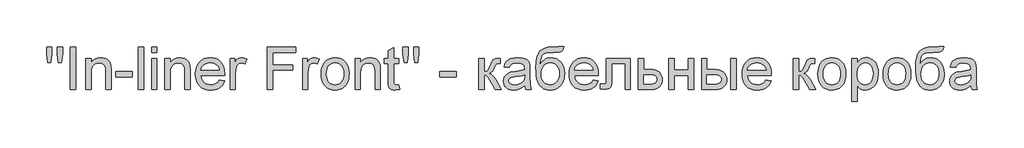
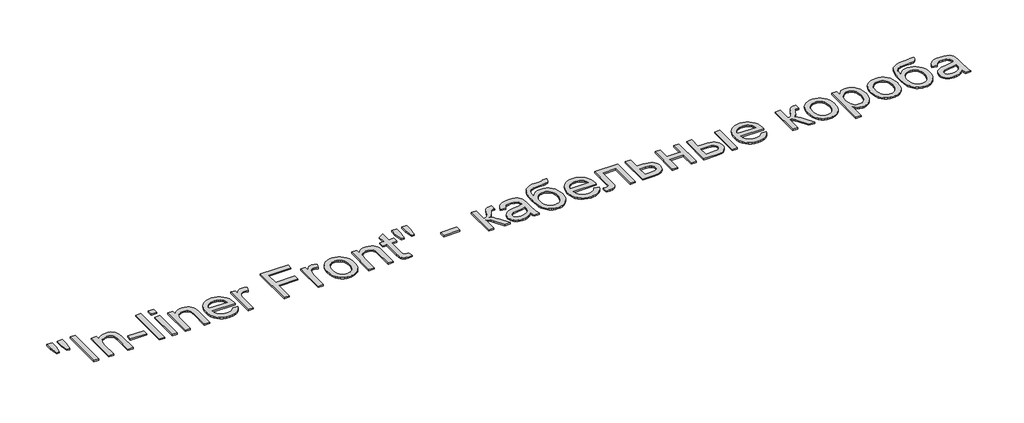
# One storey, part 29 of 48: 1 proxy.
"""IFC4 building model written with IfcOpenShell, lengths in millimetres."""

import ifcopenshell
import ifcopenshell.guid

model = None  # the IFC model being written
_history = None  # IfcOwnerHistory: only IFC2X3 demands one
_inside = {}  # id of a spatial element -> (the spatial element, [elements in it])
_under = {}  # id of a project, library or spatial element -> (it, [spatial elements below it])
_declared = {}  # id of a project -> (the project, [libraries it declares])
_typed = {}  # id of a type object -> (the type object, [elements of that type])
_made_of = {}  # id of a material, layer set ... -> (it, [elements and type objects made of it])


def new_model(schema):
    """Start an empty IFC model of exactly this schema.

    Asked for "IFC4X3", IfcOpenShell would pick the latest addendum, in which some entities
    have other attributes; the version numbers below select the first issue.
    IFC2X3 requires an IfcOwnerHistory on every rooted entity: one is made here for all.
    """
    global model, _history
    if schema == "IFC4X3":
        model = ifcopenshell.file(schema_version=(4, 3, 0, 0))
    else:
        model = ifcopenshell.file(schema=schema)
    _inside.clear()
    _under.clear()
    _declared.clear()
    _typed.clear()
    _made_of.clear()
    _history = None
    if model.schema == "IFC2X3":
        org = make("IfcOrganization", Name="unknown")
        user = make(
            "IfcPersonAndOrganization",
            ThePerson=make("IfcPerson", FamilyName="unknown"),
            TheOrganization=org,
        )
        app = make(
            "IfcApplication",
            ApplicationDeveloper=org,
            Version="unknown",
            ApplicationFullName="unknown",
            ApplicationIdentifier="unknown",
        )
        _history = make(
            "IfcOwnerHistory",
            OwningUser=user,
            OwningApplication=app,
            ChangeAction="ADDED",
            CreationDate=0,
        )
    return model


def make(cls, **values):
    """One entity of the class cls with the attributes given. An attribute that is None is left unset."""
    return model.create_entity(
        cls, **{name: value for name, value in values.items() if value is not None}
    )


def rooted(cls, **values):
    """An entity with a GlobalId (a new one), such as an element, a storey or a relation."""
    return make(cls, GlobalId=ifcopenshell.guid.new(), OwnerHistory=_history, **values)


def si_unit(unit_type, name, prefix=None):
    """IfcSIUnit, for example si_unit("LENGTHUNIT", "METRE", prefix="MILLI")."""
    return make("IfcSIUnit", UnitType=unit_type, Prefix=prefix, Name=name)


def assignment(units):
    """IfcUnitAssignment: the units of a project."""
    return None if units is None else make("IfcUnitAssignment", Units=units)


def point(xyz):
    """IfcCartesianPoint."""
    return None if xyz is None else make("IfcCartesianPoint", Coordinates=xyz)


def direction(xyz):
    """IfcDirection."""
    return None if xyz is None else make("IfcDirection", DirectionRatios=xyz)


def frame(location, z_axis=None, x_axis=None):
    """IfcAxis2Placement3D, a coordinate frame: its origin and axes. An axis left out is left unset."""
    return make(
        "IfcAxis2Placement3D",
        Location=point(location),
        Axis=direction(z_axis),
        RefDirection=direction(x_axis),
    )


def origin():
    """The frame at (0, 0, 0) with its axes left unset."""
    return frame((0.0, 0.0, 0.0))


def origin_with_axes():
    """The frame at (0, 0, 0) with the z axis (0, 0, 1) and the x axis (1, 0, 0) written out."""
    return frame((0.0, 0.0, 0.0), z_axis=(0.0, 0.0, 1.0), x_axis=(1.0, 0.0, 0.0))


def place(relative_to, where):
    """IfcLocalPlacement: puts the frame where relative to a parent placement (None: the world)."""
    return make(
        "IfcLocalPlacement", PlacementRelTo=relative_to, RelativePlacement=where
    )


def context(
    kind, dimensions, precision=None, world=None, true_north=None, identifier=None
):
    """IfcGeometricRepresentationContext, for example the 3D "Model" context."""
    return make(
        "IfcGeometricRepresentationContext",
        ContextIdentifier=identifier,
        ContextType=kind,
        CoordinateSpaceDimension=dimensions,
        Precision=precision,
        WorldCoordinateSystem=world,
        TrueNorth=true_north,
    )


def project(units=None, contexts=None):
    """IfcProject with its units and contexts."""
    return rooted(
        "IfcProject",
        Name="project",
        RepresentationContexts=contexts,
        UnitsInContext=assignment(units),
    )


def spatial(cls, under=None, at=None, **own):
    """A site, building, storey or space (cls), placed at a placement, below another one or the project."""
    s = rooted(cls, ObjectPlacement=at, **own)
    if under is not None:
        _under.setdefault(under.id(), (under, []))[1].append(s)
    return s


def polyline(points):
    """IfcPolyline through the points."""
    return make("IfcPolyline", Points=[point(p) for p in points])


def outline(outer, holes=None, kind="AREA"):
    """IfcArbitraryClosedProfileDef: a profile drawn as a closed curve; with holes, ...WithVoids."""
    if holes is None:
        return make("IfcArbitraryClosedProfileDef", ProfileType=kind, OuterCurve=outer)
    return make(
        "IfcArbitraryProfileDefWithVoids",
        ProfileType=kind,
        OuterCurve=outer,
        InnerCurves=holes,
    )


def extrude(swept, where, along, depth):
    """IfcExtrudedAreaSolid: the profile swept, set in the frame where, extruded along a direction by depth."""
    return make(
        "IfcExtrudedAreaSolid",
        SweptArea=swept,
        Position=where,
        ExtrudedDirection=direction(along),
        Depth=depth,
    )


def shape(context_of_items, identifier, shape_type, items):
    """IfcShapeRepresentation: the items that make up one representation, for example the "Body"."""
    return make(
        "IfcShapeRepresentation",
        ContextOfItems=context_of_items,
        RepresentationIdentifier=identifier,
        RepresentationType=shape_type,
        Items=items,
    )


def made_of(thing, what):
    """Note that an element or type object is made of a material, layer set ...; save() writes the relation."""
    if what is not None:
        _made_of.setdefault(what.id(), (what, []))[1].append(thing)
    return thing


def element(
    cls,
    number,
    at=None,
    inside=None,
    cuts=None,
    type_object=None,
    material=None,
    context=None,
    identifier="Body",
    shape_type=None,
    held_by="IfcProductDefinitionShape",
    body=None,
    shapes=None,
    **own,
):
    """One element of the class cls, such as IfcWall. Its Tag is "e" and its number.

    at: its placement. inside: the storey or other place that contains it. cuts: it is an
    opening in that element (IfcRelVoidsElement). A single representation is given by context,
    identifier, shape_type and body (its items); several are given by shapes. held_by: the class
    of the entity that holds the representations. save() writes the other relations.
    """
    e = rooted(cls, Tag="e%d" % number, ObjectPlacement=at, **own)
    if body is not None:
        shapes = [shape(context, identifier, shape_type, body)]
    if shapes is not None:
        e.Representation = make(held_by, Representations=shapes)
    if inside is not None:
        _inside.setdefault(inside.id(), (inside, []))[1].append(e)
    if cuts is not None:
        rooted(
            "IfcRelVoidsElement", RelatingBuildingElement=cuts, RelatedOpeningElement=e
        )
    if type_object is not None:
        _typed.setdefault(type_object.id(), (type_object, []))[1].append(e)
    return made_of(e, material)


def aggregate(whole, parts):
    """IfcRelAggregates: a whole, such as a stair, and the parts it consists of."""
    return rooted("IfcRelAggregates", RelatingObject=whole, RelatedObjects=parts)


def save(model, path):
    """Write the relations noted so far, then the file.

    IfcRelAggregates (storeys below a building ...), IfcRelContainedInSpatialStructure (elements
    in a storey), IfcRelDefinesByType, IfcRelAssociatesMaterial and IfcRelDeclares: one each for
    every whole, place, type object, material and project.
    """
    for whole, parts in _under.values():
        aggregate(whole, parts)
    for where, things in _inside.values():
        rooted(
            "IfcRelContainedInSpatialStructure",
            RelatedElements=things,
            RelatingStructure=where,
        )
    for kind, things in _typed.values():
        rooted("IfcRelDefinesByType", RelatedObjects=things, RelatingType=kind)
    for what, things in _made_of.values():
        rooted("IfcRelAssociatesMaterial", RelatedObjects=things, RelatingMaterial=what)
    for by, libraries in _declared.values():
        rooted("IfcRelDeclares", RelatingContext=by, RelatedDefinitions=libraries)
    model.write(path)


model = new_model("IFC4")

# Units and contexts
model_context = context("Model", 3, world=origin())
ifc_project = project(units=[si_unit("LENGTHUNIT", "METRE", prefix="MILLI")], contexts=[model_context])

# Site, building, storey
site = spatial("IfcSite", under=ifc_project)
building = spatial("IfcBuilding", under=site)
storey = spatial("IfcBuildingStorey", under=building, Name="Этаж 01", Elevation=0.0)

# Proxy
placement = place(None, origin())
element("IfcBuildingElementProxy", 1, Name="600 мм Arial", ObjectType="600 мм Arial", at=placement, inside=storey, context=model_context, shape_type="SweptSolid", body=[
    extrude(outline(polyline([(-11580.0276013, 10088.6137433), (-11598.4217011, 10205.0116065), (-11598.4217011, 10305.222662), (-11523.0794685, 10305.222662), (-11523.0794685, 10205.0116065), (-11539.5605819, 10088.6137433), (-11580.0276013, 10088.6137433)])), origin_with_axes(), (0.0, 0.0, 1.0), 20.0),
    extrude(outline(polyline([(-11429.7845945, 10088.6137433), (-11447.7372359, 10205.0116065), (-11447.7372359, 10305.222662), (-11372.3950032, 10305.222662), (-11372.3950032, 10205.0116065), (-11390.053339, 10088.6137433), (-11429.7845945, 10088.6137433)])), origin_with_axes(), (0.0, 0.0, 1.0), 20.0),
    extrude(outline(polyline([(-11259.3816543, 9702.4848011), (-11259.3816543, 10305.222662), (-11184.0394217, 10305.222662), (-11184.0394217, 9702.4848011), (-11259.3816543, 9702.4848011)])), origin_with_axes(), (0.0, 0.0, 1.0), 20.0),
    extrude(outline(polyline([(-11042.7727356, 9702.4848011), (-11042.7727356, 10145.1204177), (-10967.430503, 10145.1204177), (-10967.430503, 10083.3162425), (-10941.255699, 10114.4758475), (-10909.8201825, 10136.7327082), (-10873.1239535, 10150.0868247), (-10831.1670119, 10154.5381968), (-10794.0293245, 10150.9513473), (-10760.0186341, 10140.190799), (-10731.6549322, 10123.599321), (-10711.4582107, 10102.5196827), (-10697.7546064, 10077.0070663), (-10688.8702562, 10047.1166542), (-10684.8971307, 9974.2760192), (-10684.8971307, 9702.4848011), (-10760.2393633, 9702.4848011), (-10760.2393633, 9964.1224761), (-10762.409867, 10003.0811794), (-10768.9213784, 10030.7826936), (-10780.9327255, 10050.6299273), (-10799.6027368, 10066.0257888), (-10823.5334605, 10075.9034203), (-10851.3269453, 10079.1959642), (-10874.2046069, 10077.3473572), (-10895.4543906, 10071.8015361), (-10915.0762965, 10062.558501), (-10933.0703246, 10049.6182518), (-10948.1029026, 10031.5092606), (-10958.8404584, 10006.7599993), (-10965.2829918, 9975.3704681), (-10967.430503, 9937.3406668), (-10967.430503, 9702.4848011), (-11042.7727356, 9702.4848011)])), origin_with_axes(), (0.0, 0.0, 1.0), 20.0),
    extrude(outline(polyline([(-10618.9726771, 9881.4226036), (-10618.9726771, 9956.7648362), (-10383.5282002, 9956.7648362), (-10383.5282002, 9881.4226036), (-10618.9726771, 9881.4226036)])), origin_with_axes(), (0.0, 0.0, 1.0), 20.0),
    extrude(outline(polyline([(-10298.7681885, 9702.4848011), (-10298.7681885, 10305.222662), (-10223.4259559, 10305.222662), (-10223.4259559, 9702.4848011), (-10298.7681885, 9702.4848011)])), origin_with_axes(), (0.0, 0.0, 1.0), 20.0),
    extrude(outline(polyline([(-10110.412607, 10229.8804294), (-10110.412607, 10305.222662), (-10035.0703744, 10305.222662), (-10035.0703744, 10229.8804294), (-10110.412607, 10229.8804294)])), origin_with_axes(), (0.0, 0.0, 1.0), 20.0),
    extrude(outline(polyline([(-10110.412607, 9702.4848011), (-10110.412607, 10145.1204177), (-10035.0703744, 10145.1204177), (-10035.0703744, 9702.4848011), (-10110.412607, 9702.4848011)])), origin_with_axes(), (0.0, 0.0, 1.0), 20.0),
    extrude(outline(polyline([(-9922.0570255, 9702.4848011), (-9922.0570255, 10145.1204177), (-9846.7147929, 10145.1204177), (-9846.7147929, 10083.3162425), (-9820.5399889, 10114.4758475), (-9789.1044724, 10136.7327082), (-9752.4082434, 10150.0868247), (-9710.4513018, 10154.5381968), (-9673.3136144, 10150.9513473), (-9639.302924, 10140.190799), (-9610.9392221, 10123.599321), (-9590.7425006, 10102.5196827), (-9577.0388963, 10077.0070663), (-9568.1545461, 10047.1166542), (-9564.1814206, 9974.2760192), (-9564.1814206, 9702.4848011), (-9639.5236532, 9702.4848011), (-9639.5236532, 9964.1224761), (-9641.6941569, 10003.0811794), (-9648.2056683, 10030.7826936), (-9660.2170154, 10050.6299273), (-9678.8870267, 10066.0257888), (-9702.8177504, 10075.9034203), (-9730.6112352, 10079.1959642), (-9753.4888967, 10077.3473572), (-9774.7386805, 10071.8015361), (-9794.3605864, 10062.558501), (-9812.3546145, 10049.6182518), (-9827.3871925, 10031.5092606), (-9838.1247483, 10006.7599993), (-9844.5672817, 9975.3704681), (-9846.7147929, 9937.3406668), (-9846.7147929, 9702.4848011), (-9922.0570255, 9702.4848011)])), origin_with_axes(), (0.0, 0.0, 1.0), 20.0),
    extrude(outline(polyline([(-9150.682058, 9834.3337082), (-9076.8113533, 9824.9159291), (-9088.1375203, 9795.3290197), (-9103.4276157, 9769.2553832), (-9122.6816396, 9746.6950199), (-9145.899592, 9727.6479296), (-9172.8423497, 9712.5187825), (-9203.2707892, 9701.7122489), (-9237.1849106, 9695.2283288), (-9274.584714, 9693.067022), (-9321.3333185, 9696.7964258), (-9362.9867574, 9707.984637), (-9399.5450307, 9726.6316556), (-9431.0081383, 9752.7374817), (-9456.3092225, 9785.5755483), (-9474.3814255, 9824.4192884), (-9485.2247473, 9869.2687022), (-9488.8391879, 9920.1237895), (-9485.1879591, 9972.7033236), (-9474.2342727, 10019.047258), (-9455.9781287, 10059.1555925), (-9430.4195271, 10093.0283272), (-9399.0391929, 10119.9388951), (-9363.3178512, 10139.1607294), (-9323.2555019, 10150.6938299), (-9278.8521451, 10154.5381968), (-9235.8789295, 10150.703027), (-9197.0167953, 10139.1975176), (-9162.2657423, 10120.0216686), (-9131.6257706, 10093.17548), (-9106.6143935, 10059.3763217), (-9088.7491241, 10019.3415636), (-9078.0299625, 9973.0712056), (-9074.4569086, 9920.5652479), (-9074.898367, 9900.2581617), (-9413.4969553, 9900.2581617), (-9409.1329552, 9870.1930057), (-9400.4555386, 9843.8618519), (-9387.4647056, 9821.2647003), (-9370.1604563, 9802.401551), (-9349.4992837, 9787.5299214), (-9326.4376812, 9776.9073287), (-9300.9756486, 9770.5337732), (-9273.113186, 9768.4092547), (-9233.0140485, 9772.345592), (-9199.2424813, 9784.1546041), (-9171.7984845, 9804.5720548), (-9150.682058, 9834.3337082)]), holes=[polyline([(-9413.4969553, 9975.6003943), (-9149.7991412, 9975.6003943), (-9159.9894725, 10015.4052262), (-9168.754261, 10031.0586051), (-9179.9654648, 10043.8792926), (-9200.5116742, 10059.3303364), (-9223.890575, 10070.3667963), (-9250.1021672, 10076.9886722), (-9279.1464507, 10079.1959642), (-9305.6385529, 10077.4347291), (-9329.9325601, 10072.151024), (-9352.0284725, 10063.3448487), (-9371.9262899, 10051.0162034), (-9388.6235339, 10035.735305), (-9401.1177262, 10018.0723707), (-9409.4088667, 9998.0274005), (-9413.4969553, 9975.6003943)])]), origin_with_axes(), (0.0, 0.0, 1.0), 20.0),
    extrude(outline(polyline([(-8999.114676, 9702.4848011), (-8999.114676, 10145.1204177), (-8933.1902224, 10145.1204177), (-8933.1902224, 10079.6374226), (-8908.8364343, 10117.6028445), (-8886.3956326, 10139.9700698), (-8863.8812545, 10150.896165), (-8839.3067373, 10154.5381968), (-8801.7827738, 10148.7256613), (-8763.6701991, 10131.2880547), (-8788.8333275, 10063.7449204), (-8815.3208312, 10075.3332032), (-8841.8083348, 10079.1959642), (-8864.3043188, 10075.480356), (-8884.4090699, 10064.3335316), (-8900.65106, 10046.6016194), (-8911.5587611, 10023.1307481), (-8920.7190228, 9981.0450479), (-8923.7724434, 9935.1333749), (-8923.7724434, 9702.4848011), (-8999.114676, 9702.4848011)])), origin_with_axes(), (0.0, 0.0, 1.0), 20.0),
    extrude(outline(polyline([(-8471.7190477, 9702.4848011), (-8471.7190477, 10305.222662), (-8066.7545474, 10305.222662), (-8066.7545474, 10229.8804294), (-8396.3768151, 10229.8804294), (-8396.3768151, 10050.942627), (-8113.8434428, 10050.942627), (-8113.8434428, 9975.6003943), (-8396.3768151, 9975.6003943), (-8396.3768151, 9702.4848011), (-8471.7190477, 9702.4848011)])), origin_with_axes(), (0.0, 0.0, 1.0), 20.0),
    extrude(outline(polyline([(-7972.5767566, 9702.4848011), (-7972.5767566, 10145.1204177), (-7906.6523031, 10145.1204177), (-7906.6523031, 10079.6374226), (-7882.298515, 10117.6028445), (-7859.8577133, 10139.9700698), (-7837.3433352, 10150.896165), (-7812.7688179, 10154.5381968), (-7775.2448544, 10148.7256613), (-7737.1322797, 10131.2880547), (-7762.2954082, 10063.7449204), (-7788.7829118, 10075.3332032), (-7815.2704155, 10079.1959642), (-7837.7663995, 10075.480356), (-7857.8711505, 10064.3335316), (-7874.1131406, 10046.6016194), (-7885.0208418, 10023.1307481), (-7894.1811035, 9981.0450479), (-7897.234524, 9935.1333749), (-7897.234524, 9702.4848011), (-7972.5767566, 9702.4848011)])), origin_with_axes(), (0.0, 0.0, 1.0), 20.0),
    extrude(outline(polyline([(-7708.8789425, 9923.8026094), (-7704.8046494, 9981.1278213), (-7692.5817701, 10030.5251762), (-7672.2103046, 10071.9946741), (-7643.6902529, 10105.536315), (-7614.9770632, 10126.9746383), (-7583.2840293, 10142.2877264), (-7548.6111513, 10151.4755792), (-7510.9584291, 10154.5381968), (-7469.3923621, 10150.8087931), (-7431.8086178, 10139.6205819), (-7398.2071961, 10120.9735633), (-7368.5880969, 10094.8677372), (-7344.4136513, 10062.1860204), (-7327.1461902, 10023.8113298), (-7316.7857135, 9979.7436653), (-7313.3322213, 9929.9830269), (-7314.8589315, 9889.6539632), (-7319.4390624, 9853.8682421), (-7327.0726138, 9822.6258637), (-7337.7595857, 9795.9268279), (-7351.366621, 9772.8652253), (-7367.7603625, 9752.5351466), (-7386.94081, 9734.9365916), (-7408.9079636, 9720.0695605), (-7432.8064977, 9708.2559499), (-7457.7810867, 9699.8176567), (-7483.8317305, 9694.7546807), (-7510.9584291, 9693.067022), (-7553.1315013, 9696.7826302), (-7591.0647335, 9707.9294547), (-7624.7581258, 9726.5074954), (-7654.211678, 9752.5167525), (-7678.1286062, 9785.5157674), (-7695.2121264, 9825.0630819), (-7705.4622384, 9871.1586959), (-7708.8789425, 9923.8026094)]), holes=[polyline([(-7633.5367099, 9923.9497622), (-7631.357009, 9887.4052845), (-7624.8179066, 9855.7628344), (-7613.9194025, 9829.0224119), (-7598.6614967, 9807.1840169), (-7580.1018501, 9790.2200584), (-7559.2981232, 9778.1029452), (-7536.2503162, 9770.8326773), (-7510.9584291, 9768.4092547), (-7485.7953006, 9770.8464729), (-7462.8394641, 9778.1581275), (-7442.0909196, 9790.3442186), (-7423.549667, 9807.4047461), (-7408.2917613, 9829.4592718), (-7397.3932572, 9856.6273571), (-7390.8541547, 9888.9090022), (-7388.6744539, 9926.304207), (-7390.8679503, 9961.6898564), (-7397.4484395, 9992.504572), (-7408.4159214, 10018.7483539), (-7423.7703962, 10040.4212019), (-7442.3806266, 10057.3851604), (-7463.1153756, 10069.5022736), (-7485.9746431, 10076.7725415), (-7510.9584291, 10079.1959642), (-7536.2503162, 10076.7817386), (-7559.2981232, 10069.5390618), (-7580.1018501, 10057.4679338), (-7598.6614967, 10040.5683547), (-7613.9194025, 10018.7943391), (-7624.8179066, 9992.0999018), (-7631.357009, 9960.4850429), (-7633.5367099, 9923.9497622)])]), origin_with_axes(), (0.0, 0.0, 1.0), 20.0),
    extrude(outline(polyline([(-7228.5722096, 9702.4848011), (-7228.5722096, 10145.1204177), (-7153.229977, 10145.1204177), (-7153.229977, 10083.3162425), (-7127.055173, 10114.4758475), (-7095.6196565, 10136.7327082), (-7058.9234275, 10150.0868247), (-7016.966486, 10154.5381968), (-6979.8287985, 10150.9513473), (-6945.8181081, 10140.190799), (-6917.4544063, 10123.599321), (-6897.2576847, 10102.5196827), (-6883.5540804, 10077.0070663), (-6874.6697302, 10047.1166542), (-6870.6966047, 9974.2760192), (-6870.6966047, 9702.4848011), (-6946.0388373, 9702.4848011), (-6946.0388373, 9964.1224761), (-6948.2093411, 10003.0811794), (-6954.7208524, 10030.7826936), (-6966.7321995, 10050.6299273), (-6985.4022108, 10066.0257888), (-7009.3329346, 10075.9034203), (-7037.1264193, 10079.1959642), (-7060.0040809, 10077.3473572), (-7081.2538646, 10071.8015361), (-7100.8757705, 10062.558501), (-7118.8697986, 10049.6182518), (-7133.9023766, 10031.5092606), (-7144.6399324, 10006.7599993), (-7151.0824658, 9975.3704681), (-7153.229977, 9937.3406668), (-7153.229977, 9702.4848011), (-7228.5722096, 9702.4848011)])), origin_with_axes(), (0.0, 0.0, 1.0), 20.0),
    extrude(outline(polyline([(-6606.9987905, 9765.3190459), (-6597.5810114, 9700.2775092), (-6653.9405331, 9693.067022), (-6690.1033332, 9696.194019), (-6717.0690835, 9705.5750099), (-6736.1253708, 9720.0327723), (-6748.5597823, 9738.3900839), (-6755.4023874, 9769.9175708), (-6757.6832558, 9823.8858595), (-6757.6832558, 10069.7781851), (-6814.1899302, 10069.7781851), (-6814.1899302, 10145.1204177), (-6757.6832558, 10145.1204177), (-6757.6832558, 10252.6891131), (-6682.3410231, 10296.9821053), (-6682.3410231, 10145.1204177), (-6606.9987905, 10145.1204177), (-6606.9987905, 10069.7781851), (-6682.3410231, 10069.7781851), (-6682.3410231, 9826.0931515), (-6678.3678976, 9787.2448128), (-6665.4920278, 9773.4860262), (-6654.6211148, 9769.6784475), (-6639.8138645, 9768.4092547), (-6606.9987905, 9765.3190459)])), origin_with_axes(), (0.0, 0.0, 1.0), 20.0),
    extrude(outline(polyline([(-6532.0980163, 10088.6137433), (-6550.4921161, 10205.0116065), (-6550.4921161, 10305.222662), (-6475.1498835, 10305.222662), (-6475.1498835, 10205.0116065), (-6491.6309968, 10088.6137433), (-6532.0980163, 10088.6137433)])), origin_with_axes(), (0.0, 0.0, 1.0), 20.0),
    extrude(outline(polyline([(-6381.8550095, 10088.6137433), (-6399.8076508, 10205.0116065), (-6399.8076508, 10305.222662), (-6324.4654182, 10305.222662), (-6324.4654182, 10205.0116065), (-6342.123754, 10088.6137433), (-6381.8550095, 10088.6137433)])), origin_with_axes(), (0.0, 0.0, 1.0), 20.0),
    extrude(outline(polyline([(-6032.5142669, 9881.4226036), (-6032.5142669, 9956.7648362), (-5797.0697899, 9956.7648362), (-5797.0697899, 9881.4226036), (-6032.5142669, 9881.4226036)])), origin_with_axes(), (0.0, 0.0, 1.0), 20.0),
    extrude(outline(polyline([(-5476.8653013, 10145.1204177), (-5401.5230687, 10145.1204177), (-5401.5230687, 9956.7648362), (-5370.8784985, 9960.1493505), (-5351.049659, 9970.3028936), (-5333.5016878, 9996.7903973), (-5309.6997227, 10049.1767934), (-5290.5146767, 10092.0166517), (-5275.3395444, 10117.2349625), (-5261.1760876, 10130.975355), (-5245.026068, 10139.3814586), (-5222.6772368, 10143.6856779), (-5189.9173451, 10145.1204177), (-5175.4963709, 10145.1204177), (-5175.4963709, 10069.3367267), (-5195.803457, 10069.7781851), (-5219.3479047, 10067.7916223), (-5232.5916565, 10061.831934), (-5243.3338108, 10045.240456), (-5258.490549, 10012.2414411), (-5274.4014453, 9979.1872438), (-5288.8776018, 9958.6042462), (-5306.4071789, 9944.8638536), (-5331.4783368, 9932.3374717), (-5307.6027954, 9921.7332732), (-5283.9479831, 9903.0172767), (-5260.5139, 9876.1894822), (-5237.3005461, 9841.2498897), (-5156.6608127, 9702.4848011), (-5242.3037412, 9702.4848011), (-5321.3247938, 9838.3068337), (-5342.6619495, 9874.4512398), (-5361.0560493, 9895.7700014), (-5379.63409, 9906.199456), (-5401.5230687, 9909.6759408), (-5401.5230687, 9702.4848011), (-5476.8653013, 9702.4848011), (-5476.8653013, 10145.1204177)])), origin_with_axes(), (0.0, 0.0, 1.0), 20.0),
    extrude(outline(polyline([(-4827.0385451, 9758.9914756), (-4863.0357983, 9728.1261762), (-4900.0999093, 9707.9294547), (-4939.0770067, 9696.7826302), (-4980.813219, 9693.067022), (-5014.3594585, 9695.3019052), (-5043.7762225, 9702.0065545), (-5069.0635112, 9713.1809701), (-5090.2213244, 9728.825152), (-5106.9277655, 9747.9458187), (-5118.8609377, 9769.5496888), (-5126.0208411, 9793.6367625), (-5128.4074755, 9820.2070396), (-5124.802232, 9851.440221), (-5113.9865013, 9879.8039228), (-5097.3030528, 9904.0841345), (-5076.0946558, 9923.0668454), (-5051.1706506, 9937.4142432), (-5023.3403777, 9947.7885155), (-4958.1516881, 9959.119281), (-4881.1171984, 9971.0386576), (-4827.4800035, 9985.0181734), (-4827.0385451, 10001.7935924), (-4832.2256812, 10035.4180068), (-4838.7096014, 10047.8708123), (-4847.7870896, 10057.4173501), (-4863.4772567, 10066.9454937), (-4882.5887263, 10073.7513107), (-4931.0755733, 10079.1959642), (-4975.9571767, 10075.5723265), (-5007.3007227, 10064.7014136), (-5028.6746666, 10044.5966625), (-5043.6474638, 10013.2715106), (-5118.9896964, 10022.6892897), (-5105.9114915, 10063.8920732), (-5086.3953517, 10096.2656888), (-5058.620261, 10121.024147), (-5020.7652037, 10139.3814586), (-4974.4672546, 10150.7490122), (-4921.3634886, 10154.5381968), (-4870.4302264, 10151.1904706), (-4830.0551774, 10141.1472922), (-4799.6129423, 10126.0457363), (-4778.4781217, 10107.5228778), (-4764.4618177, 10084.6222236), (-4755.3751324, 10056.3872805), (-4751.6963125, 9990.4628269), (-4751.6963125, 9896.7264946), (-4747.8703397, 9765.8340807), (-4742.204957, 9733.4788592), (-4732.8607543, 9702.4848011), (-4808.2029869, 9702.4848011), (-4820.2695164, 9728.6779992), (-4827.0385451, 9758.9914756)]), holes=[polyline([(-4827.0385451, 9909.6759408), (-4877.6591076, 9897.1311648), (-4948.5867563, 9886.5729515), (-5013.4075638, 9874.3592693), (-5030.2749533, 9866.008348), (-5042.764547, 9854.4936415), (-5050.4900689, 9840.6980667), (-5053.0652429, 9825.5045403), (-5047.4550425, 9803.1005268), (-5030.6244412, 9784.7432152), (-5002.9413211, 9772.4927448), (-4964.7735641, 9768.4092547), (-4924.3065446, 9772.9158091), (-4888.5484147, 9786.4354724), (-4859.5593134, 9806.3562825), (-4839.3993801, 9830.066277), (-4830.4598476, 9854.4936415), (-4827.4800035, 9888.3387851), (-4827.0385451, 9909.6759408)])]), origin_with_axes(), (0.0, 0.0, 1.0), 20.0),
    extrude(outline(polyline([(-4337.3140331, 10314.6404411), (-4271.3895795, 10314.6404411), (-4278.5264903, 10278.8271289), (-4290.8137489, 10255.8528983), (-4307.8466853, 10242.2596585), (-4329.2206292, 10234.5893189), (-4364.0590541, 10231.0576518), (-4421.4854336, 10229.8804294), (-4498.0968591, 10225.5394219), (-4525.5454544, 10220.1131624), (-4545.7559716, 10212.5163992), (-4561.1794242, 10202.5284031), (-4574.2668262, 10189.9284447), (-4585.0181775, 10174.7165242), (-4593.4334781, 10156.8926416), (-4604.7090613, 10113.1514723), (-4609.5467095, 10058.4474197), (-4579.2516272, 10100.5331199), (-4544.2844436, 10130.5522907), (-4525.0396167, 10141.0461246), (-4504.6083704, 10148.5417203), (-4460.1866195, 10154.5381968), (-4419.1401859, 10150.7260196), (-4381.7909663, 10139.2894881), (-4348.1389608, 10120.2286022), (-4318.1841693, 10093.543362), (-4293.591258, 10060.3558075), (-4276.0248927, 10021.7879788), (-4265.4850735, 9977.839876), (-4261.9718005, 9928.511499), (-4263.7146414, 9890.7760033), (-4268.9431643, 9856.5905689), (-4277.657369, 9825.9551958), (-4289.8572557, 9798.8698839), (-4320.336279, 9754.0066745), (-4356.0024384, 9720.6581717), (-4376.8613476, 9708.5870437), (-4401.1783474, 9699.9648095), (-4428.9534381, 9694.7914689), (-4460.1866195, 9693.067022), (-4496.3172299, 9695.2881096), (-4528.1896063, 9701.9513722), (-4555.8037485, 9713.05681), (-4579.1596567, 9728.6044228), (-4599.1494446, 9747.6147249), (-4616.6652261, 9769.1082304), (-4631.7070012, 9793.0849395), (-4644.2747699, 9819.544852), (-4654.1891896, 9852.3829186), (-4661.270918, 9895.4940899), (-4665.5199551, 9948.8783659), (-4666.9363008, 10012.5357467), (-4663.3632469, 10091.8649004), (-4652.6440852, 10157.0949767), (-4634.7788159, 10208.2259755), (-4623.1663908, 10228.5043208), (-4609.7674387, 10245.2578968), (-4577.3432394, 10271.4924816), (-4537.2395034, 10290.2314707), (-4489.4562307, 10301.4748642), (-4433.9934214, 10305.222662), (-4350.1163265, 10306.9149192), (-4341.912558, 10309.6924283), (-4337.3140331, 10314.6404411)]), holes=[polyline([(-4337.3140331, 9930.8659437), (-4339.3557782, 9961.984162), (-4345.4810134, 9990.1501273), (-4355.6897387, 10015.3638395), (-4369.9819543, 10037.6252987), (-4387.9897779, 10055.8124649), (-4409.3453277, 10068.8032978), (-4434.0486037, 10076.5977976), (-4462.0996058, 10079.1959642), (-4491.3738156, 10076.4506448), (-4517.0979641, 10068.2146866), (-4539.2720514, 10054.4880897), (-4557.8960774, 10035.270854), (-4572.6389483, 10011.4642903), (-4583.1695705, 9983.9697097), (-4589.4879437, 9952.7871121), (-4591.5940681, 9917.9164975), (-4589.2672145, 9883.7724498), (-4582.2866537, 9853.8866362), (-4570.6523856, 9828.2590567), (-4554.3644102, 9806.8897114), (-4534.6643294, 9790.0545115), (-4512.7937448, 9778.0293688), (-4488.7526564, 9770.8142832), (-4462.5410642, 9768.4092547), (-4435.9707871, 9771.1913622), (-4412.0308663, 9779.537685), (-4390.7213017, 9793.448223), (-4372.0420934, 9812.9229761), (-4356.848567, 9836.9870571), (-4345.9960482, 9864.6655787), (-4339.4845369, 9895.9585409), (-4337.3140331, 9930.8659437)])]), origin_with_axes(), (0.0, 0.0, 1.0), 20.0),
    extrude(outline(polyline([(-3857.890217, 9834.3337082), (-3784.0195123, 9824.9159291), (-3795.3456793, 9795.3290197), (-3810.6357747, 9769.2553832), (-3829.8897986, 9746.6950199), (-3853.107751, 9727.6479296), (-3880.0505087, 9712.5187825), (-3910.4789482, 9701.7122489), (-3944.3930696, 9695.2283288), (-3981.7928729, 9693.067022), (-4028.5414775, 9696.7964258), (-4070.1949164, 9707.984637), (-4106.7531897, 9726.6316556), (-4138.2162973, 9752.7374817), (-4163.5173815, 9785.5755483), (-4181.5895845, 9824.4192884), (-4192.4329063, 9869.2687022), (-4196.0473469, 9920.1237895), (-4192.3961181, 9972.7033236), (-4181.4424317, 10019.047258), (-4163.1862877, 10059.1555925), (-4137.6276861, 10093.0283272), (-4106.2473519, 10119.9388951), (-4070.5260102, 10139.1607294), (-4030.4636609, 10150.6938299), (-3986.0603041, 10154.5381968), (-3943.0870885, 10150.703027), (-3904.2249543, 10139.1975176), (-3869.4739013, 10120.0216686), (-3838.8339296, 10093.17548), (-3813.8225525, 10059.3763217), (-3795.9572831, 10019.3415636), (-3785.2381214, 9973.0712056), (-3781.6650676, 9920.5652479), (-3782.106526, 9900.2581617), (-4120.7051143, 9900.2581617), (-4116.3411142, 9870.1930057), (-4107.6636976, 9843.8618519), (-4094.6728646, 9821.2647003), (-4077.3686153, 9802.401551), (-4056.7074427, 9787.5299214), (-4033.6458402, 9776.9073287), (-4008.1838076, 9770.5337732), (-3980.321345, 9768.4092547), (-3940.2222075, 9772.345592), (-3906.4506403, 9784.1546041), (-3879.0066435, 9804.5720548), (-3857.890217, 9834.3337082)]), holes=[polyline([(-4120.7051143, 9975.6003943), (-3857.0073002, 9975.6003943), (-3867.1976314, 10015.4052262), (-3875.96242, 10031.0586051), (-3887.1736238, 10043.8792926), (-3907.7198332, 10059.3303364), (-3931.098734, 10070.3667963), (-3957.3103262, 10076.9886722), (-3986.3546097, 10079.1959642), (-4012.8467119, 10077.4347291), (-4037.1407191, 10072.151024), (-4059.2366315, 10063.3448487), (-4079.1344489, 10051.0162034), (-4095.8316929, 10035.735305), (-4108.3258852, 10018.0723707), (-4116.6170257, 9998.0274005), (-4120.7051143, 9975.6003943)])]), origin_with_axes(), (0.0, 0.0, 1.0), 20.0),
    extrude(outline(polyline([(-3668.6517187, 10145.1204177), (-3329.6116719, 10145.1204177), (-3329.6116719, 9702.9262595), (-3404.9539045, 9702.9262595), (-3404.9539045, 10069.7781851), (-3593.309486, 10069.7781851), (-3593.309486, 9858.6139199), (-3594.5786789, 9797.3247795), (-3598.3862576, 9761.1987676), (-3607.8960071, 9739.1442419), (-3626.2717128, 9720.0695605), (-3654.157168, 9706.880991), (-3692.1961663, 9702.4848011), (-3753.4117303, 9706.3107739), (-3753.4117303, 9777.8270337), (-3719.7137396, 9777.8270337), (-3699.2778947, 9778.985862), (-3685.6478668, 9782.4623469), (-3677.1313986, 9788.4588234), (-3672.036233, 9797.1776267), (-3668.6517187, 9862.881351), (-3668.6517187, 10145.1204177)])), origin_with_axes(), (0.0, 0.0, 1.0), 20.0),
    extrude(outline(polyline([(-3216.598323, 10145.1204177), (-3141.2560904, 10145.1204177), (-3141.2560904, 9985.0181734), (-3054.4359395, 9985.0181734), (-3014.3551961, 9982.6591301), (-2979.1672833, 9975.5820002), (-2948.872201, 9963.7867838), (-2923.4699492, 9947.2734807), (-2903.3835923, 9926.6123082), (-2889.0361945, 9902.3734832), (-2880.4277558, 9874.5570058), (-2877.5582762, 9843.1628761), (-2880.000093, 9815.1532607), (-2887.3255432, 9789.2497697), (-2899.5346269, 9765.4524031), (-2916.6273441, 9743.761161), (-2939.0911384, 9725.7027535), (-2967.4134535, 9712.8038911), (-3001.5942894, 9705.0645736), (-3041.6336461, 9702.4848011), (-3216.598323, 9702.4848011), (-3216.598323, 10145.1204177)]), holes=[polyline([(-3141.2560904, 9777.8270337), (-3070.9170529, 9777.8270337), (-3016.3417589, 9781.7817652), (-2995.9105126, 9786.7251795), (-2980.0502001, 9793.6459595), (-2968.1722102, 9802.6636669), (-2959.6879316, 9813.8978634), (-2954.5973645, 9827.3485488), (-2952.9005088, 9843.0157233), (-2957.9220981, 9867.6270288), (-2972.9868658, 9889.3688547), (-2986.0788663, 9898.2532049), (-3005.2685108, 9904.5991693), (-3061.9407322, 9909.6759408), (-3141.2560904, 9909.6759408), (-3141.2560904, 9777.8270337)])]), origin_with_axes(), (0.0, 0.0, 1.0), 20.0),
    extrude(outline(polyline([(-2783.3804855, 10145.1204177), (-2708.0382528, 10145.1204177), (-2708.0382528, 9975.6003943), (-2510.2648922, 9975.6003943), (-2510.2648922, 10145.1204177), (-2434.9226596, 10145.1204177), (-2434.9226596, 9702.4848011), (-2510.2648922, 9702.4848011), (-2510.2648922, 9900.2581617), (-2708.0382528, 9900.2581617), (-2708.0382528, 9702.4848011), (-2783.3804855, 9702.4848011), (-2783.3804855, 10145.1204177)])), origin_with_axes(), (0.0, 0.0, 1.0), 20.0),
    extrude(outline(polyline([(-1907.5270313, 10145.1204177), (-1832.1847987, 10145.1204177), (-1832.1847987, 9702.4848011), (-1907.5270313, 9702.4848011), (-1907.5270313, 10145.1204177)])), origin_with_axes(), (0.0, 0.0, 1.0), 20.0),
    extrude(outline(polyline([(-2321.9093107, 10145.1204177), (-2246.5670781, 10145.1204177), (-2246.5670781, 9985.0181734), (-2153.4193569, 9985.0181734), (-2110.556506, 9982.6591301), (-2072.9083823, 9975.5820002), (-2040.4749859, 9963.7867838), (-2013.2563168, 9947.2734807), (-1991.7214245, 9926.6123082), (-1976.3393585, 9902.3734832), (-1967.110119, 9874.5570058), (-1964.0337058, 9843.1628761), (-1966.6134783, 9815.1532607), (-1974.3527958, 9789.2497697), (-1987.2516582, 9765.4524031), (-2005.3100657, 9743.761161), (-2029.0338558, 9725.7027535), (-2058.9288665, 9712.8038911), (-2094.9950976, 9705.0645736), (-2137.2325491, 9702.4848011), (-2321.9093107, 9702.4848011), (-2321.9093107, 10145.1204177)]), holes=[polyline([(-2246.5670781, 9777.8270337), (-2169.1647063, 9777.8270337), (-2109.1631529, 9781.7817652), (-2086.69476, 9786.7251795), (-2069.2479564, 9793.6459595), (-2056.1789485, 9802.6636669), (-2046.8439429, 9813.8978634), (-2041.2429395, 9827.3485488), (-2039.3759384, 9843.0157233), (-2044.9125624, 9867.6270288), (-2061.5224345, 9889.3688547), (-2075.9388102, 9898.2532049), (-2097.0414412, 9904.5991693), (-2159.3054688, 9909.6759408), (-2246.5670781, 9909.6759408), (-2246.5670781, 9777.8270337)])]), origin_with_axes(), (0.0, 0.0, 1.0), 20.0),
    extrude(outline(polyline([(-1409.2676571, 9834.3337082), (-1335.3969524, 9824.9159291), (-1346.7231194, 9795.3290197), (-1362.0132148, 9769.2553832), (-1381.2672387, 9746.6950199), (-1404.4851911, 9727.6479296), (-1431.4279488, 9712.5187825), (-1461.8563883, 9701.7122489), (-1495.7705097, 9695.2283288), (-1533.170313, 9693.067022), (-1579.9189176, 9696.7964258), (-1621.5723565, 9707.984637), (-1658.1306298, 9726.6316556), (-1689.5937374, 9752.7374817), (-1714.8948216, 9785.5755483), (-1732.9670246, 9824.4192884), (-1743.8103464, 9869.2687022), (-1747.424787, 9920.1237895), (-1743.7735582, 9972.7033236), (-1732.8198718, 10019.047258), (-1714.5637278, 10059.1555925), (-1689.0051262, 10093.0283272), (-1657.624792, 10119.9388951), (-1621.9034503, 10139.1607294), (-1581.841101, 10150.6938299), (-1537.4377442, 10154.5381968), (-1494.4645286, 10150.703027), (-1455.6023944, 10139.1975176), (-1420.8513414, 10120.0216686), (-1390.2113697, 10093.17548), (-1365.1999926, 10059.3763217), (-1347.3347232, 10019.3415636), (-1336.6155616, 9973.0712056), (-1333.0425077, 9920.5652479), (-1333.4839661, 9900.2581617), (-1672.0825544, 9900.2581617), (-1667.7185543, 9870.1930057), (-1659.0411377, 9843.8618519), (-1646.0503047, 9821.2647003), (-1628.7460554, 9802.401551), (-1608.0848828, 9787.5299214), (-1585.0232803, 9776.9073287), (-1559.5612477, 9770.5337732), (-1531.6987851, 9768.4092547), (-1491.5996476, 9772.345592), (-1457.8280804, 9784.1546041), (-1430.3840836, 9804.5720548), (-1409.2676571, 9834.3337082)]), holes=[polyline([(-1672.0825544, 9975.6003943), (-1408.3847403, 9975.6003943), (-1418.5750716, 10015.4052262), (-1427.3398601, 10031.0586051), (-1438.5510639, 10043.8792926), (-1459.0972733, 10059.3303364), (-1482.4761741, 10070.3667963), (-1508.6877663, 10076.9886722), (-1537.7320498, 10079.1959642), (-1564.224152, 10077.4347291), (-1588.5181592, 10072.151024), (-1610.6140716, 10063.3448487), (-1630.511889, 10051.0162034), (-1647.209133, 10035.735305), (-1659.7033253, 10018.0723707), (-1667.9944658, 9998.0274005), (-1672.0825544, 9975.6003943)])]), origin_with_axes(), (0.0, 0.0, 1.0), 20.0),
    extrude(outline(polyline([(-1022.2557981, 10145.1204177), (-946.9135655, 10145.1204177), (-946.9135655, 9956.7648362), (-916.2689953, 9960.1493505), (-896.4401558, 9970.3028936), (-878.8921846, 9996.7903973), (-855.0902195, 10049.1767934), (-835.9051735, 10092.0166517), (-820.7300412, 10117.2349625), (-806.5665844, 10130.975355), (-790.4165648, 10139.3814586), (-768.0677336, 10143.6856779), (-735.3078419, 10145.1204177), (-720.8868677, 10145.1204177), (-720.8868677, 10069.3367267), (-741.1939538, 10069.7781851), (-764.7384015, 10067.7916223), (-777.9821533, 10061.831934), (-788.7243076, 10045.240456), (-803.8810458, 10012.2414411), (-819.7919421, 9979.1872438), (-834.2680986, 9958.6042462), (-851.7976757, 9944.8638536), (-876.8688337, 9932.3374717), (-852.9932922, 9921.7332732), (-829.3384799, 9903.0172767), (-805.9043968, 9876.1894822), (-782.6910429, 9841.2498897), (-702.0513095, 9702.4848011), (-787.694238, 9702.4848011), (-866.7152906, 9838.3068337), (-888.0524463, 9874.4512398), (-906.4465461, 9895.7700014), (-925.0245868, 9906.199456), (-946.9135655, 9909.6759408), (-946.9135655, 9702.4848011), (-1022.2557981, 9702.4848011), (-1022.2557981, 10145.1204177)])), origin_with_axes(), (0.0, 0.0, 1.0), 20.0),
    extrude(outline(polyline([(-673.7979723, 9923.8026094), (-669.7236792, 9981.1278213), (-657.5007999, 10030.5251762), (-637.1293344, 10071.9946741), (-608.6092828, 10105.536315), (-579.896093, 10126.9746383), (-548.2030592, 10142.2877264), (-513.5301811, 10151.4755792), (-475.8774589, 10154.5381968), (-434.311392, 10150.8087931), (-396.7276476, 10139.6205819), (-363.1262259, 10120.9735633), (-333.5071268, 10094.8677372), (-309.3326812, 10062.1860204), (-292.06522, 10023.8113298), (-281.7047433, 9979.7436653), (-278.2512511, 9929.9830269), (-279.7779614, 9889.6539632), (-284.3580922, 9853.8682421), (-291.9916436, 9822.6258637), (-302.6786156, 9795.9268279), (-316.2856509, 9772.8652253), (-332.6793923, 9752.5351466), (-351.8598398, 9734.9365916), (-373.8269934, 9720.0695605), (-397.7255276, 9708.2559499), (-422.7001165, 9699.8176567), (-448.7507603, 9694.7546807), (-475.8774589, 9693.067022), (-518.0505311, 9696.7826302), (-555.9837634, 9707.9294547), (-589.6771556, 9726.5074954), (-619.1307078, 9752.5167525), (-643.047636, 9785.5157674), (-660.1311562, 9825.0630819), (-670.3812683, 9871.1586959), (-673.7979723, 9923.8026094)]), holes=[polyline([(-598.4557397, 9923.9497622), (-596.2760389, 9887.4052845), (-589.7369364, 9855.7628344), (-578.8384323, 9829.0224119), (-563.5805266, 9807.1840169), (-545.0208799, 9790.2200584), (-524.2171531, 9778.1029452), (-501.1693461, 9770.8326773), (-475.8774589, 9768.4092547), (-450.7143304, 9770.8464729), (-427.7584939, 9778.1581275), (-407.0099494, 9790.3442186), (-388.4686969, 9807.4047461), (-373.2107911, 9829.4592718), (-362.312287, 9856.6273571), (-355.7731845, 9888.9090022), (-353.5934837, 9926.304207), (-355.7869801, 9961.6898564), (-362.3674693, 9992.504572), (-373.3349513, 10018.7483539), (-388.6894261, 10040.4212019), (-407.2996565, 10057.3851604), (-428.0344054, 10069.5022736), (-450.8936729, 10076.7725415), (-475.8774589, 10079.1959642), (-501.1693461, 10076.7817386), (-524.2171531, 10069.5390618), (-545.0208799, 10057.4679338), (-563.5805266, 10040.5683547), (-578.8384323, 10018.7943391), (-589.7369364, 9992.0999018), (-596.2760389, 9960.4850429), (-598.4557397, 9923.9497622)])]), origin_with_axes(), (0.0, 0.0, 1.0), 20.0),
    extrude(outline(polyline([(-193.4912394, 9532.9647777), (-193.4912394, 10145.1204177), (-118.1490068, 10145.1204177), (-118.1490068, 10071.2497131), (-93.5744895, 10107.6884247), (-66.0569163, 10133.7160759), (-33.9776063, 10149.3326666), (4.2821212, 10154.5381968), (30.5580927, 10152.7171809), (55.2337775, 10147.2541333), (78.3091757, 10138.1490539), (99.7842871, 10125.4019428), (119.1900624, 10109.3438937), (136.0574519, 10090.3060004), (150.3864556, 10068.288263), (162.1770735, 10043.2906815), (177.9592111, 9987.7772884), (183.2199236, 9927.1871238), (177.2786294, 9862.7525923), (169.8520116, 9833.0875079), (159.4547468, 9805.1238778), (146.229389, 9779.5928673), (130.3184927, 9757.225642), (111.7220579, 9738.0222019), (90.4400845, 9721.9825469), (67.5164376, 9709.3320048), (43.9949826, 9700.2959033), (19.8757193, 9694.8742423), (-4.8413523, 9693.067022), (-39.4774421, 9697.9046703), (-70.3979238, 9712.417615), (-96.8670334, 9734.3249878), (-118.1490068, 9761.3459204), (-118.1490068, 9532.9647777), (-193.4912394, 9532.9647777)]), holes=[polyline([(-118.1490068, 9920.2709423), (-116.1118603, 9883.9609893), (-110.0004206, 9852.727808), (-99.8146879, 9826.5713981), (-85.554662, 9805.4917598), (-68.3883684, 9789.2681638), (-49.4838324, 9777.6798809), (-28.8410539, 9770.7269112), (-6.4600331, 9768.4092547), (16.2428846, 9770.8096847), (37.2627421, 9778.0109747), (56.5995394, 9790.0131248), (74.2532767, 9806.816135), (88.963958, 9828.6591284), (99.4715874, 9855.7812285), (105.7761651, 9888.1824352), (107.877691, 9925.8627486), (105.8267489, 9961.8600018), (99.6739225, 9993.0380009), (89.4192119, 10019.3967459), (75.0626171, 10040.9362367), (57.8549367, 10057.6748675), (39.0469697, 10069.6310323), (18.6387161, 10076.8047312), (-3.3698243, 10079.1959642), (-25.3093868, 10076.6529799), (-45.9521652, 10069.024027), (-65.2981597, 10056.3091056), (-83.3473701, 10038.5082155), (-98.5730861, 10015.8604802), (-109.4485976, 9988.6050229), (-115.9739045, 9956.7418436), (-118.1490068, 9920.2709423)])]), origin_with_axes(), (0.0, 0.0, 1.0), 20.0),
    extrude(outline(polyline([(249.1443772, 9923.8026094), (253.2186703, 9981.1278213), (265.4415496, 10030.5251762), (285.8130151, 10071.9946741), (314.3330667, 10105.536315), (343.0462565, 10126.9746383), (374.7392903, 10142.2877264), (409.4121684, 10151.4755792), (447.0648906, 10154.5381968), (488.6309575, 10150.8087931), (526.2147019, 10139.6205819), (559.8161236, 10120.9735633), (589.4352227, 10094.8677372), (613.6096683, 10062.1860204), (630.8771295, 10023.8113298), (641.2376062, 9979.7436653), (644.6910984, 9929.9830269), (643.1643881, 9889.6539632), (638.5842573, 9853.8682421), (630.9507059, 9822.6258637), (620.2637339, 9795.9268279), (606.6566986, 9772.8652253), (590.2629572, 9752.5351466), (571.0825097, 9734.9365916), (549.1153561, 9720.0695605), (525.2168219, 9708.2559499), (500.242233, 9699.8176567), (474.1915892, 9694.7546807), (447.0648906, 9693.067022), (404.8918184, 9696.7826302), (366.9585861, 9707.9294547), (333.2651939, 9726.5074954), (303.8116417, 9752.5167525), (279.8947135, 9785.5157674), (262.8111933, 9825.0630819), (252.5610812, 9871.1586959), (249.1443772, 9923.8026094)]), holes=[polyline([(324.4866098, 9923.9497622), (326.6663106, 9887.4052845), (333.2054131, 9855.7628344), (344.1039172, 9829.0224119), (359.3618229, 9807.1840169), (377.9214696, 9790.2200584), (398.7251964, 9778.1029452), (421.7730034, 9770.8326773), (447.0648906, 9768.4092547), (472.2280191, 9770.8464729), (495.1838556, 9778.1581275), (515.9324001, 9790.3442186), (534.4736526, 9807.4047461), (549.7315584, 9829.4592718), (560.6300625, 9856.6273571), (567.169165, 9888.9090022), (569.3488658, 9926.304207), (567.1553694, 9961.6898564), (560.5748802, 9992.504572), (549.6073982, 10018.7483539), (534.2529234, 10040.4212019), (515.642693, 10057.3851604), (494.9079441, 10069.5022736), (472.0486766, 10076.7725415), (447.0648906, 10079.1959642), (421.7730034, 10076.7817386), (398.7251964, 10069.5390618), (377.9214696, 10057.4679338), (359.3618229, 10040.5683547), (344.1039172, 10018.7943391), (333.2054131, 9992.0999018), (326.6663106, 9960.4850429), (324.4866098, 9923.9497622)])]), origin_with_axes(), (0.0, 0.0, 1.0), 20.0),
    extrude(outline(polyline([(1040.2378196, 10314.6404411), (1106.1622731, 10314.6404411), (1099.0253624, 10278.8271289), (1086.7381038, 10255.8528983), (1069.7051674, 10242.2596585), (1048.3312235, 10234.5893189), (1013.4927986, 10231.0576518), (956.0664191, 10229.8804294), (879.4549936, 10225.5394219), (852.0063983, 10220.1131624), (831.7958811, 10212.5163992), (816.3724285, 10202.5284031), (803.2850265, 10189.9284447), (792.5336752, 10174.7165242), (784.1183746, 10156.8926416), (772.8427914, 10113.1514723), (768.0051432, 10058.4474197), (798.3002255, 10100.5331199), (833.2674091, 10130.5522907), (852.512236, 10141.0461246), (872.9434823, 10148.5417203), (917.3652332, 10154.5381968), (958.4116668, 10150.7260196), (995.7608864, 10139.2894881), (1029.4128919, 10120.2286022), (1059.3676834, 10093.543362), (1083.9605947, 10060.3558075), (1101.52696, 10021.7879788), (1112.0667792, 9977.839876), (1115.5800522, 9928.511499), (1113.8372113, 9890.7760033), (1108.6086884, 9856.5905689), (1099.8944837, 9825.9551958), (1087.694597, 9798.8698839), (1057.2155737, 9754.0066745), (1021.5494143, 9720.6581717), (1000.6905051, 9708.5870437), (976.3735052, 9699.9648095), (948.5984146, 9694.7914689), (917.3652332, 9693.067022), (881.2346228, 9695.2881096), (849.3622464, 9701.9513722), (821.7481042, 9713.05681), (798.392196, 9728.6044228), (778.4024081, 9747.6147249), (760.8866266, 9769.1082304), (745.8448515, 9793.0849395), (733.2770828, 9819.544852), (723.3626631, 9852.3829186), (716.2809347, 9895.4940899), (712.0318976, 9948.8783659), (710.6155519, 10012.5357467), (714.1886058, 10091.8649004), (724.9077674, 10157.0949767), (742.7730368, 10208.2259755), (754.3854619, 10228.5043208), (767.784414, 10245.2578968), (800.2086133, 10271.4924816), (840.3123493, 10290.2314707), (888.095622, 10301.4748642), (943.5584313, 10305.222662), (1027.4355262, 10306.9149192), (1035.6392947, 10309.6924283), (1040.2378196, 10314.6404411)]), holes=[polyline([(1040.2378196, 9930.8659437), (1038.1960745, 9961.984162), (1032.0708393, 9990.1501273), (1021.862114, 10015.3638395), (1007.5698984, 10037.6252987), (989.5620748, 10055.8124649), (968.206525, 10068.8032978), (943.503249, 10076.5977976), (915.4522468, 10079.1959642), (886.1780371, 10076.4506448), (860.4538886, 10068.2146866), (838.2798013, 10054.4880897), (819.6557753, 10035.270854), (804.9129043, 10011.4642903), (794.3822822, 9983.9697097), (788.063909, 9952.7871121), (785.9577845, 9917.9164975), (788.2846382, 9883.7724498), (795.265199, 9853.8866362), (806.8994671, 9828.2590567), (823.1874425, 9806.8897114), (842.8875233, 9790.0545115), (864.7581079, 9778.0293688), (888.7991963, 9770.8142832), (915.0107885, 9768.4092547), (941.5810656, 9771.1913622), (965.5209864, 9779.537685), (986.830551, 9793.448223), (1005.5097593, 9812.9229761), (1020.7032857, 9836.9870571), (1031.5558045, 9864.6655787), (1038.0673158, 9895.9585409), (1040.2378196, 9930.8659437)])]), origin_with_axes(), (0.0, 0.0, 1.0), 20.0),
    extrude(outline(polyline([(1492.2912153, 9758.9914756), (1456.2939621, 9728.1261762), (1419.229851, 9707.9294547), (1380.2527537, 9696.7826302), (1338.5165413, 9693.067022), (1304.9703019, 9695.3019052), (1275.5535378, 9702.0065545), (1250.2662492, 9713.1809701), (1229.1084359, 9728.825152), (1212.4019948, 9747.9458187), (1200.4688226, 9769.5496888), (1193.3089193, 9793.6367625), (1190.9222848, 9820.2070396), (1194.5275284, 9851.440221), (1205.343259, 9879.8039228), (1222.0267075, 9904.0841345), (1243.2351046, 9923.0668454), (1268.1591097, 9937.4142432), (1295.9893827, 9947.7885155), (1361.1780722, 9959.119281), (1438.212562, 9971.0386576), (1491.8497569, 9985.0181734), (1492.2912153, 10001.7935924), (1487.1040792, 10035.4180068), (1480.620159, 10047.8708123), (1471.5426708, 10057.4173501), (1455.8525037, 10066.9454937), (1436.741034, 10073.7513107), (1388.254187, 10079.1959642), (1343.3725836, 10075.5723265), (1312.0290376, 10064.7014136), (1290.6550937, 10044.5966625), (1275.6822965, 10013.2715106), (1200.3400639, 10022.6892897), (1213.4182688, 10063.8920732), (1232.9344087, 10096.2656888), (1260.7094993, 10121.024147), (1298.5645566, 10139.3814586), (1344.8625057, 10150.7490122), (1397.9662717, 10154.5381968), (1448.899534, 10151.1904706), (1489.2745829, 10141.1472922), (1519.716818, 10126.0457363), (1540.8516386, 10107.5228778), (1554.8679427, 10084.6222236), (1563.9546279, 10056.3872805), (1567.6334479, 9990.4628269), (1567.6334479, 9896.7264946), (1571.4594206, 9765.8340807), (1577.1248034, 9733.4788592), (1586.4690061, 9702.4848011), (1511.1267734, 9702.4848011), (1499.060244, 9728.6779992), (1492.2912153, 9758.9914756)]), holes=[polyline([(1492.2912153, 9909.6759408), (1441.6706527, 9897.1311648), (1370.7430041, 9886.5729515), (1305.9221965, 9874.3592693), (1289.0548071, 9866.008348), (1276.5652133, 9854.4936415), (1268.8396914, 9840.6980667), (1266.2645174, 9825.5045403), (1271.8747179, 9803.1005268), (1288.7053192, 9784.7432152), (1316.3884393, 9772.4927448), (1354.5561963, 9768.4092547), (1395.0232158, 9772.9158091), (1430.7813457, 9786.4354724), (1459.7704469, 9806.3562825), (1479.9303802, 9830.066277), (1488.8699127, 9854.4936415), (1491.8497569, 9888.3387851), (1492.2912153, 9909.6759408)])]), origin_with_axes(), (0.0, 0.0, 1.0), 20.0),
])

save(model, "model.ifc")
